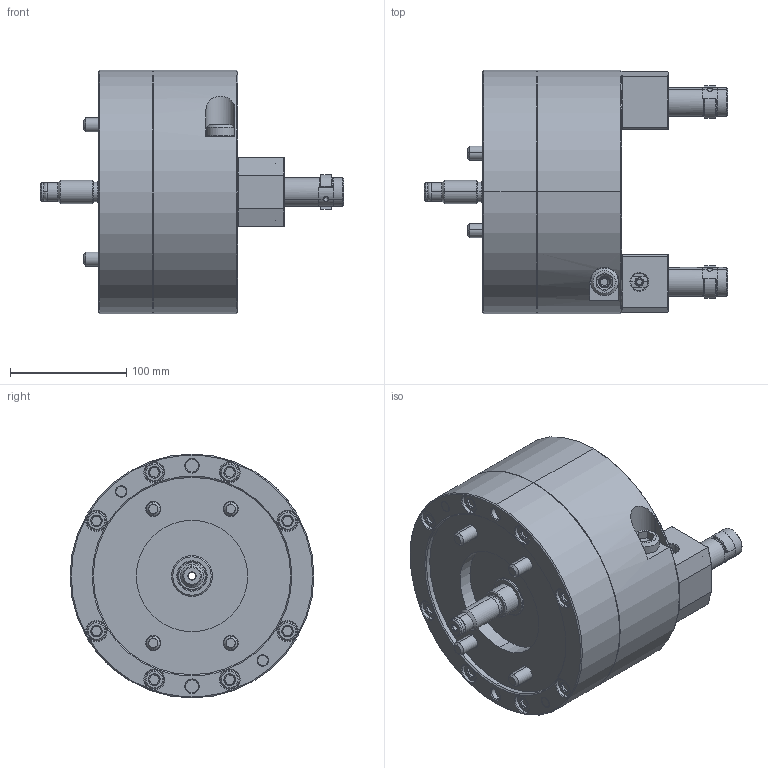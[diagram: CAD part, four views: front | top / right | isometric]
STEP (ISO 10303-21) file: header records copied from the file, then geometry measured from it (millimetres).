
FILE_DESCRIPTION (( 'STEP AP214' ), '1' );
FILE_NAME ('FGT08_UC.STEP', '2019-12-02T04:13:55', ( '' ), ( '' ), 'SwSTEP 2.0', 'SolidWorks 2017', '' );
FILE_SCHEMA (( 'AUTOMOTIVE_DESIGN' ));
Length unit declared in the file: millimetre
Products named in the file (2): FGT08_UC; 結合
Assembly tree (1 placements, depth 2):
  FGT08_UC
    結合
Bounding box: 261 x 210 x 210 mm (x, y, z)
Volume: 4193052.3 mm3; surface area: 248997.6 mm2
Topology: 3 solids, 17 shells, 1511 faces, 3663 edges, 2258 vertices
Faces by surface type: plane 656, cone 358, cylinder 318, bspline 99, torus 80
Entity records: 49423 total; most frequent: CARTESIAN_POINT 14626, ORIENTED_EDGE 7238, DIRECTION 7017, EDGE_CURVE 3619, AXIS2_PLACEMENT_3D 2617, VERTEX_POINT 2258, VECTOR 1783, LINE 1783
